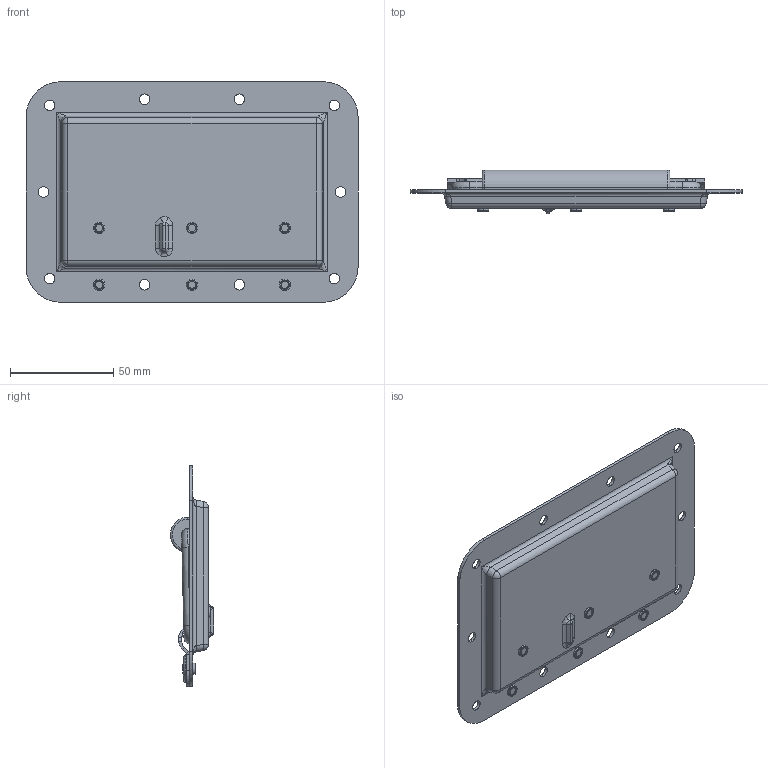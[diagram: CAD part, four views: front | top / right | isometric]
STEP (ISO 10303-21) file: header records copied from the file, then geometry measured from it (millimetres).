
FILE_DESCRIPTION (( 'STEP AP203' ), '1' );
FILE_NAME ('Wiberger-kh38-7151.step', '2019-09-23T12:05:53', ( '' ), ( '' ), 'SwSTEP 2.0', 'SolidWorks 2019', '' );
FILE_SCHEMA (( 'CONFIG_CONTROL_DESIGN' ));
Length unit declared in the file: millimetre
Products named in the file (6): Wiberger-kh38-7151_nit_liten; Wiberger-kh38-7151_nit_stor; Wiberger-kh38-7151_platta_underdel; Wiberger-kh38-7151_grepp; Wiberger-kh38-7151_platta_overdel; Wiberger-kh38-7151
Assembly tree (9 placements, depth 2):
  Wiberger-kh38-7151
    Wiberger-kh38-7151_platta_underdel
    Wiberger-kh38-7151_platta_overdel
    Wiberger-kh38-7151_nit_liten  x3
    Wiberger-kh38-7151_nit_stor  x3
    Wiberger-kh38-7151_grepp
Bounding box: 161 x 21.08 x 107 mm (x, y, z)
Volume: 63500.7 mm3; surface area: 60485.8 mm2
Topology: 9 solids, 9 shells, 345 faces, 774 edges, 446 vertices
Faces by surface type: cylinder 168, plane 81, torus 56, bspline 26, sphere 14
Entity records: 9138 total; most frequent: CARTESIAN_POINT 2377, DIRECTION 1350, ORIENTED_EDGE 1200, EDGE_CURVE 600, AXIS2_PLACEMENT_3D 549, VERTEX_POINT 354, EDGE_LOOP 322, CIRCLE 296
